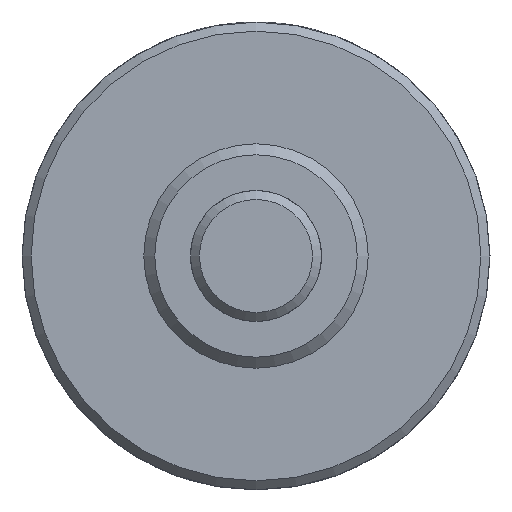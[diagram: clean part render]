
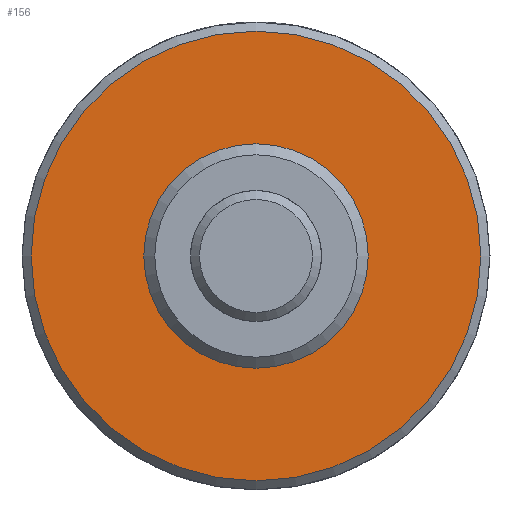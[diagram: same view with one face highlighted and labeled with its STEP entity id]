
A CAD part, left-side view. The second image highlights one B-rep face of the part: STEP entity #156.
In plain terms, the highlighted planar face has unit normal (-1, 0, 0).
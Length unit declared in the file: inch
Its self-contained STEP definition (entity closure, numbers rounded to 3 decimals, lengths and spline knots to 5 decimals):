
#156 = ADVANCED_FACE( '', ( #326, #327 ), #328, .F. );
#326 = FACE_OUTER_BOUND( '', #522, .T. );
#327 = FACE_BOUND( '', #523, .T. );
#328 = PLANE( '', #524 );
#522 = EDGE_LOOP( '', ( #772 ) );
#523 = EDGE_LOOP( '', ( #773 ) );
#524 = AXIS2_PLACEMENT_3D( '', #774, #775, #776 );
#772 = ORIENTED_EDGE( '', *, *, #1043, .F. );
#773 = ORIENTED_EDGE( '', *, *, #1044, .T. );
#774 = CARTESIAN_POINT( '', ( 0.625, 0.3745, 0. ) );
#775 = DIRECTION( '', ( 1., 0., 0. ) );
#776 = DIRECTION( '', ( 0., 0., -1. ) );
#1043 = EDGE_CURVE( '', #1208, #1208, #1209, .T. );
#1044 = EDGE_CURVE( '', #1210, #1210, #1211, .T. );
#1208 = VERTEX_POINT( '', #1473 );
#1209 = CIRCLE( '', #1474, 0.7515 );
#1210 = VERTEX_POINT( '', #1475 );
#1211 = CIRCLE( '', #1476, 0.3745 );
#1473 = CARTESIAN_POINT( '', ( 0.625, 0., -0.7515 ) );
#1474 = AXIS2_PLACEMENT_3D( '', #1667, #1668, #1669 );
#1475 = CARTESIAN_POINT( '', ( 0.625, 0., -0.3745 ) );
#1476 = AXIS2_PLACEMENT_3D( '', #1670, #1671, #1672 );
#1667 = CARTESIAN_POINT( '', ( 0.625, 0., 0. ) );
#1668 = DIRECTION( '', ( 1., 0., 0. ) );
#1669 = DIRECTION( '', ( 0., 0., -1. ) );
#1670 = CARTESIAN_POINT( '', ( 0.625, 0., 0. ) );
#1671 = DIRECTION( '', ( 1., 0., 0. ) );
#1672 = DIRECTION( '', ( 0., 0., -1. ) );
